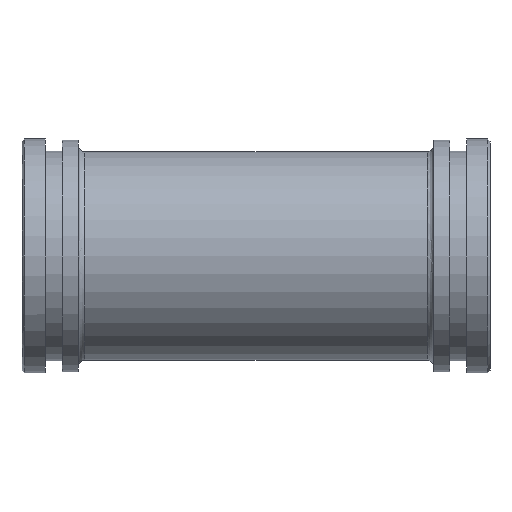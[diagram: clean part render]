
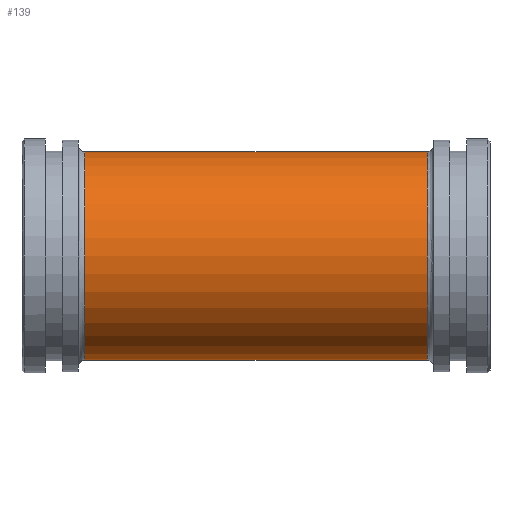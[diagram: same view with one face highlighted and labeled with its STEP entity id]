
A CAD part, front view. The second image highlights one B-rep face of the part: STEP entity #139.
In plain terms, the highlighted cylindrical face has radius 22.25 mm (diameter 44.5 mm), a full revolution.
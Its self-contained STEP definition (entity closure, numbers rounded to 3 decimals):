
#97=CARTESIAN_POINT('',(36.6,22.25,0.0));
#98=VERTEX_POINT('',#97);
#99=CARTESIAN_POINT('',(36.6,0.0,0.0));
#100=DIRECTION('',(1.0,0.0,0.0));
#101=DIRECTION('',(0.0,-1.0,0.0));
#102=AXIS2_PLACEMENT_3D('',#99,#100,#101);
#103=CIRCLE('',#102,22.25);
#104=EDGE_CURVE('',#98,#98,#103,.T.);
#120=CARTESIAN_POINT('',(0.0,0.0,0.0));
#121=DIRECTION('',(1.0,0.0,0.0));
#122=DIRECTION('',(0.0,1.0,0.0));
#123=AXIS2_PLACEMENT_3D('',#120,#121,#122);
#124=CYLINDRICAL_SURFACE('',#123,22.25);
#125=CARTESIAN_POINT('',(-36.6,22.25,0.));
#126=VERTEX_POINT('',#125);
#127=CARTESIAN_POINT('',(-36.6,0.0,0.0));
#128=DIRECTION('',(-1.0,0.0,0.0));
#129=DIRECTION('',(0.0,-1.0,0.0));
#130=AXIS2_PLACEMENT_3D('',#127,#128,#129);
#131=CIRCLE('',#130,22.25);
#132=EDGE_CURVE('',#126,#126,#131,.T.);
#133=ORIENTED_EDGE('',*,*,#132,.F.);
#134=EDGE_LOOP('',(#133));
#135=FACE_OUTER_BOUND('',#134,.T.);
#136=ORIENTED_EDGE('',*,*,#104,.F.);
#137=EDGE_LOOP('',(#136));
#138=FACE_BOUND('',#137,.T.);
#139=ADVANCED_FACE('',(#135,#138),#124,.T.);
